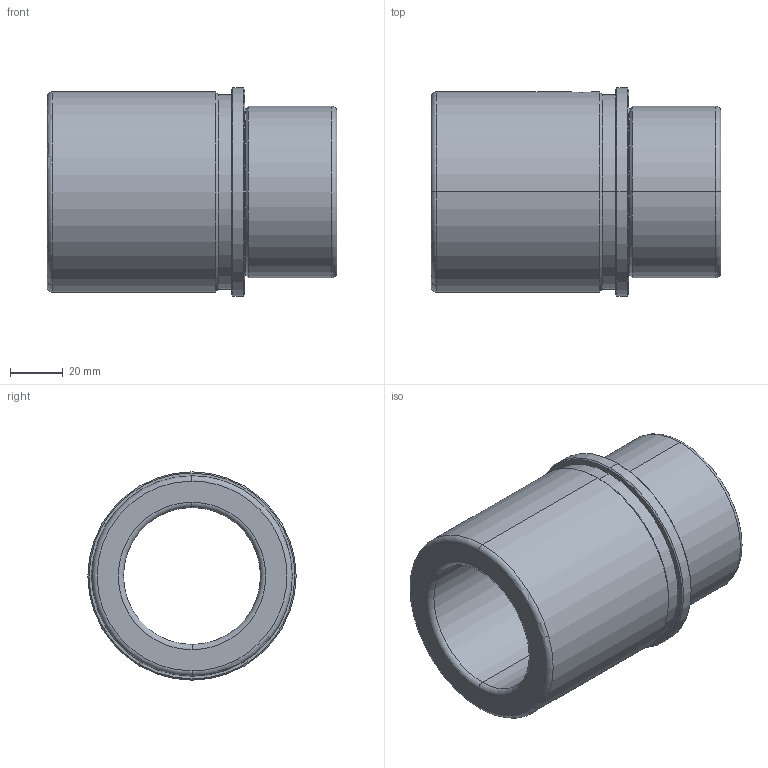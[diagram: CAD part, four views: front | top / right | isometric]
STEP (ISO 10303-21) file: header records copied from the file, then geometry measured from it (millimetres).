
FILE_DESCRIPTION(('CATIA V5 STEP Exchange'),'2;1');
FILE_NAME('C:\Users\Utente\Desktop\IO LAVORO\3D X SITO CF\X SITO\FAMO\FAMO-SF1-E52 x 110.stp','2021-01-06T16:59:24+00:00',('none'),('none'),'CATIA Version 5 Release 20 GA (IN-10)','CATIA V5 STEP AP203','none');
FILE_SCHEMA(('CONFIG_CONTROL_DESIGN'));
Length unit declared in the file: millimetre
Products named in the file (1): FAMO-SF1-E52 x 110
Bounding box: 110 x 79 x 79 mm (x, y, z)
Volume: 221335.8 mm3; surface area: 48889.3 mm2
Topology: 1 solids, 1 shells, 37 faces, 126 edges, 94 vertices
Faces by surface type: cylinder 14, cone 10, torus 8, plane 5
Entity records: 1675 total; most frequent: CARTESIAN_POINT 545, ORIENTED_EDGE 252, DIRECTION 179, EDGE_CURVE 126, AXIS2_PLACEMENT_3D 119, VERTEX_POINT 94, CIRCLE 81, EDGE_LOOP 44
